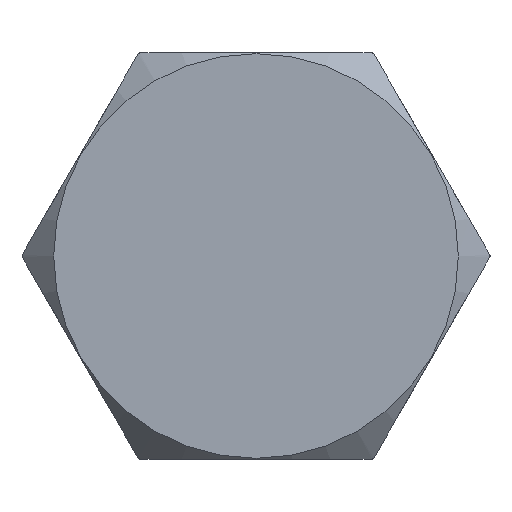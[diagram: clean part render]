
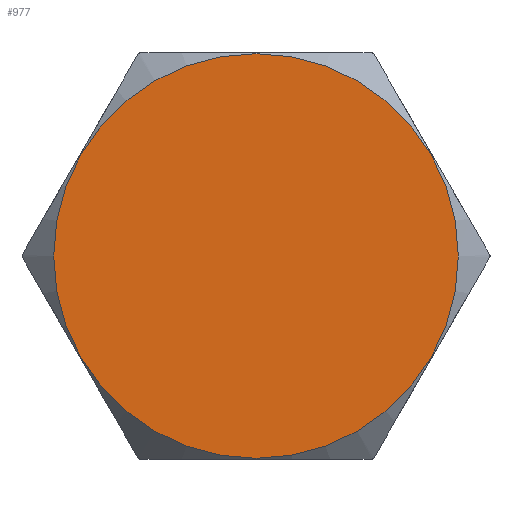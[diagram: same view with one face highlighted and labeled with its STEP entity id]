
A CAD part, front view. The second image highlights one B-rep face of the part: STEP entity #977.
In plain terms, the highlighted planar face has unit normal (0, -1, 0).
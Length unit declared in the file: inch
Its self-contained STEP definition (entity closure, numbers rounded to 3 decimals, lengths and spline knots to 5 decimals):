
#56=PLANE('',#1111);
#147=FACE_OUTER_BOUND('',#207,.T.);
#207=EDGE_LOOP('',(#823));
#347=CIRCLE('',#1108,0.498);
#453=VERTEX_POINT('',#1848);
#583=EDGE_CURVE('',#453,#453,#347,.T.);
#823=ORIENTED_EDGE('',*,*,#583,.F.);
#977=ADVANCED_FACE('',(#147),#56,.T.);
#1108=AXIS2_PLACEMENT_3D('',#1849,#1347,#1348);
#1111=AXIS2_PLACEMENT_3D('',#1853,#1354,#1355);
#1347=DIRECTION('center_axis',(0.,1.,0.));
#1348=DIRECTION('ref_axis',(0.,0.,1.));
#1354=DIRECTION('center_axis',(0.,-1.,0.));
#1355=DIRECTION('ref_axis',(0.,0.,-1.));
#1848=CARTESIAN_POINT('',(0.,0.,-0.498));
#1849=CARTESIAN_POINT('Origin',(0.,0.,0.));
#1853=CARTESIAN_POINT('Origin',(0.,0.,0.));
